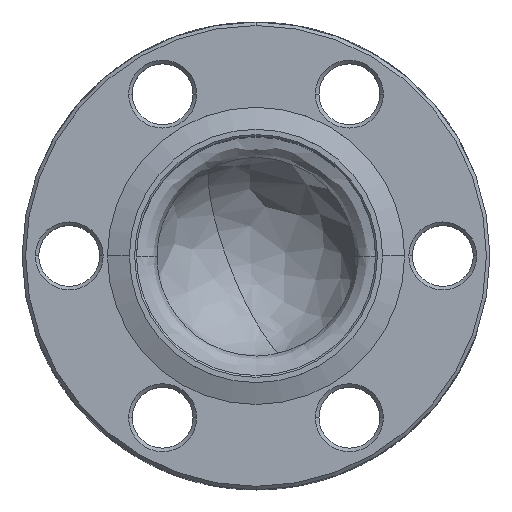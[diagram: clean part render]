
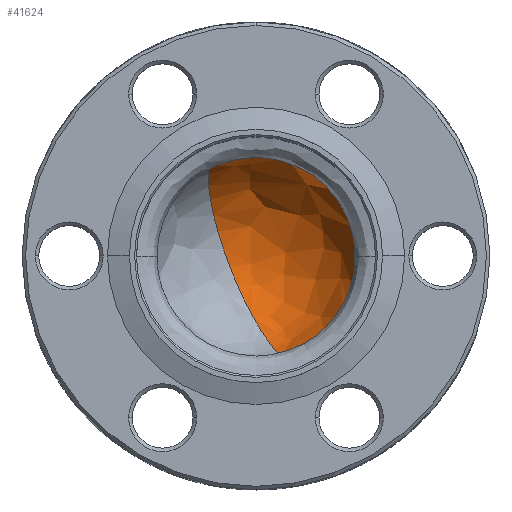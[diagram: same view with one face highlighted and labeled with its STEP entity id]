
A CAD part, top view. The second image highlights one B-rep face of the part: STEP entity #41624.
In plain terms, the highlighted free-form (B-spline) face has degree [3, 3] with [4, 4] control points.
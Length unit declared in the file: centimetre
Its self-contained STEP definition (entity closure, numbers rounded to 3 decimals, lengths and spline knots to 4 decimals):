
#2139 = AXIS2_PLACEMENT_3D ( 'NONE', #20258, #20259, #20260 ) ;
#2167 = AXIS2_PLACEMENT_3D ( 'NONE', #50694, #50695, #50696 ) ;
#2282 = AXIS2_PLACEMENT_3D ( 'NONE', #56700, #56702, #56704 ) ;
#2283 = AXIS2_PLACEMENT_3D ( 'NONE', #56707, #56709, #56711 ) ;
#4274 = EDGE_CURVE ( 'NONE', #20201, #10177, #35739, .T. ) ;
#4527 = EDGE_CURVE ( 'NONE', #10177, #9836, #35807, .T. ) ;
#9836 = VERTEX_POINT ( 'NONE', #22193 ) ;
#10177 = VERTEX_POINT ( 'NONE', #22531 ) ;
#15738 = ORIENTED_EDGE ( 'NONE', *, *, #4527, .F. ) ;
#16003 = ORIENTED_EDGE ( 'NONE', *, *, #24151, .F. ) ;
#16210 = ORIENTED_EDGE ( 'NONE', *, *, #24152, .T. ) ;
#16253 = ORIENTED_EDGE ( 'NONE', *, *, #4274, .F. ) ;
#17431 = CARTESIAN_POINT ( 'NONE',  ( -0.0225, -0.4122, -14.9983 ) ) ;
#17433 = CARTESIAN_POINT ( 'NONE',  ( -0.0225, -0.4122, -14.9983 ) ) ;
#17471 = CARTESIAN_POINT ( 'NONE',  ( -0.0225, -0.4122, -14.9983 ) ) ;
#17473 = CARTESIAN_POINT ( 'NONE',  ( -0.0225, -0.4122, -14.9983 ) ) ;
#17475 = CARTESIAN_POINT ( 'NONE',  ( 0.2829, -0.9657, -14.6753 ) ) ;
#17477 = CARTESIAN_POINT ( 'NONE',  ( 1.5638, -0.4607, -15.0211 ) ) ;
#17479 = CARTESIAN_POINT ( 'NONE',  ( 0.9531, 0.6462, -15.6669 ) ) ;
#17481 = CARTESIAN_POINT ( 'NONE',  ( -0.3278, 0.1412, -15.3212 ) ) ;
#17483 = CARTESIAN_POINT ( 'NONE',  ( 0.4485, -0.9147, -13.987 ) ) ;
#17485 = CARTESIAN_POINT ( 'NONE',  ( 2.3513, -0.1646, -14.5006 ) ) ;
#17487 = CARTESIAN_POINT ( 'NONE',  ( 1.4442, 1.4797, -15.4599 ) ) ;
#17489 = CARTESIAN_POINT ( 'NONE',  ( -0.4586, 0.7296, -14.9464 ) ) ;
#17491 = CARTESIAN_POINT ( 'NONE',  ( 0.304, -0.3116, -13.6416 ) ) ;
#17493 = CARTESIAN_POINT ( 'NONE',  ( 1.5297, 0.1715, -13.9724 ) ) ;
#17495 = CARTESIAN_POINT ( 'NONE',  ( 0.9453, 1.2307, -14.5904 ) ) ;
#17497 = CARTESIAN_POINT ( 'NONE',  ( -0.2803, 0.7475, -14.2596 ) ) ;
#20201 = VERTEX_POINT ( 'NONE', #23023 ) ;
#20225 = VERTEX_POINT ( 'NONE', #23071 ) ;
#20258 = CARTESIAN_POINT ( 'NONE',  ( 0., 0., -14.3129 ) ) ;
#20259 = DIRECTION ( 'NONE',  ( 0., 0., -1. ) ) ;
#20260 = DIRECTION ( 'NONE',  ( -1., 0., 0. ) ) ;
#22193 = CARTESIAN_POINT ( 'NONE',  ( 0.2934, -0.7443, -14.3129 ) ) ;
#22531 = CARTESIAN_POINT ( 'NONE',  ( 0.8001, 0., -14.3129 ) ) ;
#23023 = CARTESIAN_POINT ( 'NONE',  ( -0.2934, 0.7443, -14.3129 ) ) ;
#23071 = CARTESIAN_POINT ( 'NONE',  ( -0.0225, -0.4122, -14.9983 ) ) ;
#24151 = EDGE_CURVE ( 'NONE', #20225, #20201, #52928, .T. ) ;
#24152 = EDGE_CURVE ( 'NONE', #20225, #9836, #52920, .T. ) ;
#30238 = FACE_OUTER_BOUND ( 'NONE', #39239, .T. ) ;
#35739 = CIRCLE ( 'NONE', #2139, 0.8001 ) ;
#35807 = CIRCLE ( 'NONE', #2167, 0.8001 ) ;
#39239 = EDGE_LOOP ( 'NONE', ( #16003, #16210, #15738, #16253 ) ) ;
#41624 = ADVANCED_FACE ( 'NONE', ( #30238 ), #64450, .T. ) ;
#50694 = CARTESIAN_POINT ( 'NONE',  ( 0., 0., -14.3129 ) ) ;
#50695 = DIRECTION ( 'NONE',  ( 0., 0., -1. ) ) ;
#50696 = DIRECTION ( 'NONE',  ( -1., 0., 0. ) ) ;
#52920 = CIRCLE ( 'NONE', #2283, 0.8001 ) ;
#52928 = CIRCLE ( 'NONE', #2282, 0.8001 ) ;
#56700 = CARTESIAN_POINT ( 'NONE',  ( 0., 0., -14.3129 ) ) ;
#56702 = DIRECTION ( 'NONE',  ( 0.902, 0.356, -0.244 ) ) ;
#56704 = DIRECTION ( 'NONE',  ( -0.028, -0.515, -0.857 ) ) ;
#56707 = CARTESIAN_POINT ( 'NONE',  ( 0., 0., -14.3129 ) ) ;
#56709 = DIRECTION ( 'NONE',  ( -0.902, -0.356, 0.244 ) ) ;
#56711 = DIRECTION ( 'NONE',  ( -0.028, -0.515, -0.857 ) ) ;
#64450 =( BOUNDED_SURFACE ( )  B_SPLINE_SURFACE ( 3, 3, ( 
 ( #17433, #17431, #17471, #17473 ),
 ( #17475, #17477, #17479, #17481 ),
 ( #17483, #17485, #17487, #17489 ),
 ( #17491, #17493, #17495, #17497 ) ),
 .UNSPECIFIED., .F., .F., .F. ) 
 B_SPLINE_SURFACE_WITH_KNOTS ( ( 4, 4 ),
 ( 4, 4 ),
 ( 0., 1. ),
 ( 0., 1. ),
 .UNSPECIFIED. ) 
 GEOMETRIC_REPRESENTATION_ITEM ( )  RATIONAL_B_SPLINE_SURFACE ( (
 ( 1., 0.333, 0.333, 1.),
 ( 0.657, 0.219, 0.219, 0.657),
 ( 0.657, 0.219, 0.219, 0.657),
 ( 1., 0.333, 0.333, 1.) ) ) 
 REPRESENTATION_ITEM ( '' )  SURFACE ( )  );
